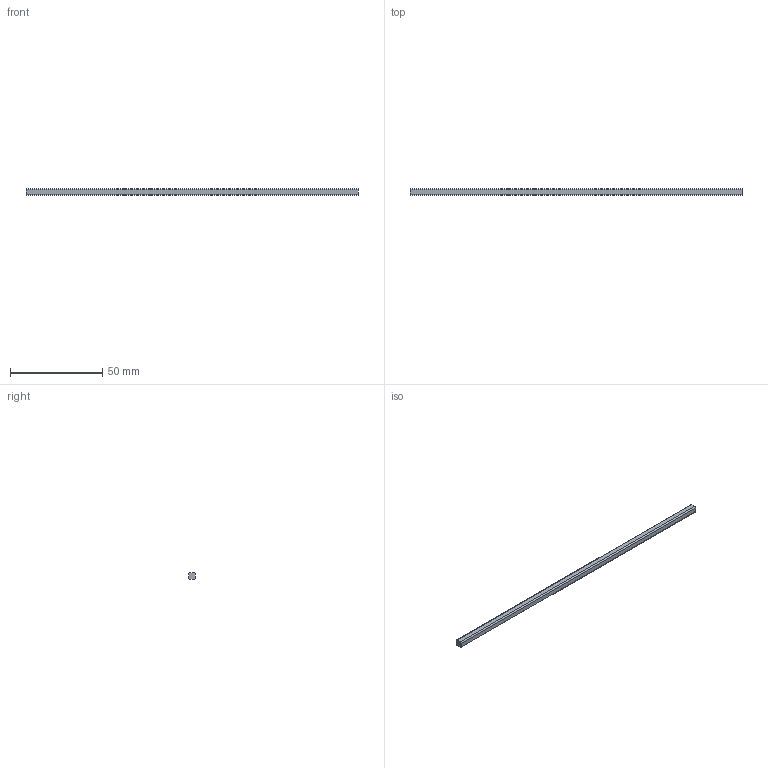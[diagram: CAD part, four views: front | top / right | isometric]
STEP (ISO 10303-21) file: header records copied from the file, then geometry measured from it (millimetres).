
FILE_DESCRIPTION(('FreeCAD Model'),'2;1');
FILE_NAME('Open CASCADE Shape Model','2023-12-15T12:59:35',('Author'),( ''),'Open CASCADE STEP processor 7.5','FreeCAD','Unknown');
FILE_SCHEMA(('AUTOMOTIVE_DESIGN { 1 0 10303 214 1 1 1 1 }'));
Length unit declared in the file: millimetre
Products named in the file (1): Fillet
Bounding box: 180 x 3.7 x 3.7 mm (x, y, z)
Volume: 2388.5 mm3; surface area: 2474.2 mm2
Topology: 1 solids, 1 shells, 10 faces, 24 edges, 16 vertices
Faces by surface type: plane 6, cylinder 4
Entity records: 642 total; most frequent: CARTESIAN_POINT 123, DIRECTION 98, LINE 56, VECTOR 56, ORIENTED_EDGE 48, PCURVE 48, DEFINITIONAL_REPRESENTATION 48, EDGE_CURVE 24
